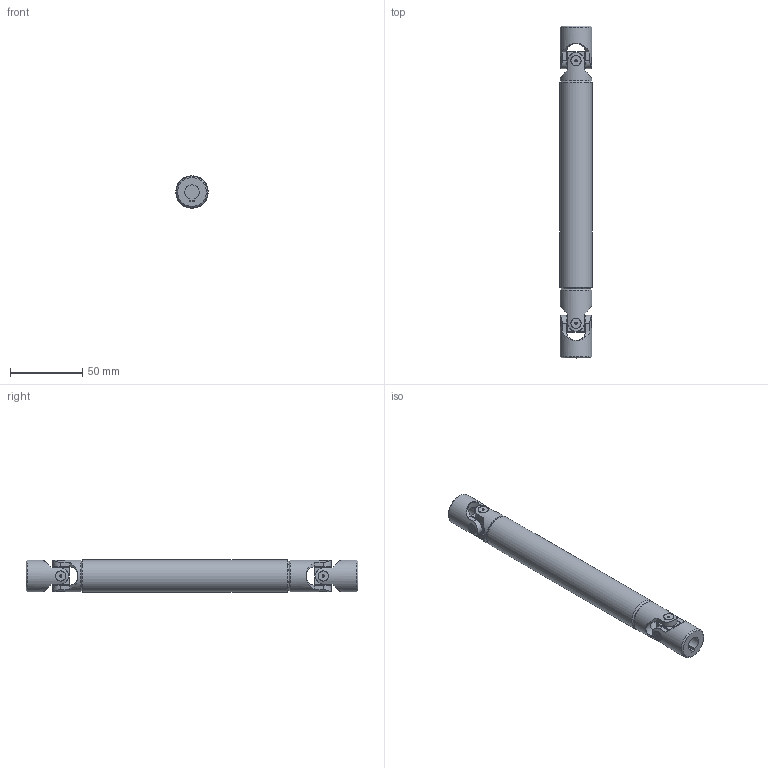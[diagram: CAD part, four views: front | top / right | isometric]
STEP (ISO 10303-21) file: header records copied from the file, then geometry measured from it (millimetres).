
FILE_DESCRIPTION(/* description */ (''),/* implementation_level */ '2;1');
FILE_NAME(/* name */ '\\SRV2016\Societa\Stefano\Disegni 3D\00Catalogo 3D\03Trasmissioni standard GA\!03GA25\!03GA25_SG0A1025.stp',/* time_stamp */ '2022-02-15T10:42:53+01:00',/* author */ ('acquisti'),/* organization */ (''),/* preprocessor_version */ 'ST-DEVELOPER v15.6',/* originating_system */ 'Autodesk Inventor 2015',/* authorisation */ '');
FILE_SCHEMA (('AUTOMOTIVE_DESIGN { 1 0 10303 214 3 1 1 }'));
Length unit declared in the file: millimetre
Products named in the file (5): !03GA25 LCI; !03GA25 LAI; 03G SFE; 03G MOC; !03GA25_SG0A1025
Assembly tree (6 placements, depth 2):
  !03GA25_SG0A1025
    !03GA25 LCI
    !03GA25 LAI
    03G SFE  x2
    03G MOC  x2
Bounding box: 22.5 x 230 x 22.5 mm (x, y, z)
Volume: 65229 mm3; surface area: 37076.8 mm2
Topology: 6 solids, 6 shells, 212 faces, 517 edges, 341 vertices
Faces by surface type: plane 106, cylinder 77, cone 25, torus 4
Full cylindrical faces by diameter (mm): 1.5 x8, 10 x9, 11.5 x2, 18 x1, 22 x4, 22.5 x1
Entity records: 5393 total; most frequent: CARTESIAN_POINT 1571, DIRECTION 775, ORIENTED_EDGE 748, EDGE_CURVE 374, AXIS2_PLACEMENT_3D 311, VERTEX_POINT 262, EDGE_LOOP 212, FACE_OUTER_BOUND 164
